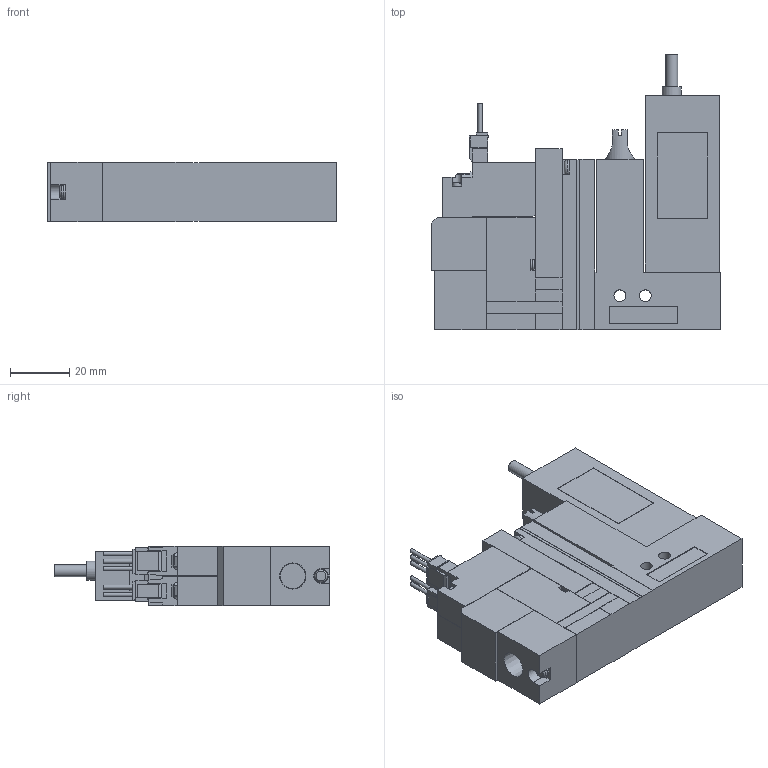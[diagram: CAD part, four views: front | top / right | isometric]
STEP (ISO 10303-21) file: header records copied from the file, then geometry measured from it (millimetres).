
FILE_DESCRIPTION(('STEP AP203'),'1');
FILE_NAME('VG_VGPLC5WLR.stp','2025-02-17T00:22:48',(' '),(' '),'Spatial InterOp 3D',' ',' ');
FILE_SCHEMA(('CONFIG_CONTROL_DESIGN'));
Length unit declared in the file: millimetre
Products named in the file (5): BMC22S※※※※VG_VGPLC5WLR; Solenoid valve W; Pressure sensor VGLC; Unit LC; Base SR10R
Assembly tree (4 placements, depth 2):
  BMC22S※※※※VG_VGPLC5WLR
    Solenoid valve W
    Pressure sensor VGLC
    Unit LC
    Base SR10R
Bounding box: 97.6 x 93 x 20 mm (x, y, z)
Volume: 112538.5 mm3; surface area: 28619.4 mm2
Topology: 4 solids, 4 shells, 399 faces, 1057 edges, 697 vertices
Faces by surface type: plane 342, cylinder 46, cone 6, torus 5
Full cylindrical faces by diameter (mm): 1.4 x5, 2.5 x3, 3 x4, 3.5 x4, 3.6 x1, 4 x6, 4.134 x1, 6 x1, 6.5 x1
Entity records: 12281 total; most frequent: CARTESIAN_POINT 2242, ORIENTED_EDGE 2010, DIRECTION 1941, EDGE_CURVE 1005, LINE 865, VECTOR 865, VERTEX_POINT 683, AXIS2_PLACEMENT_3D 538
